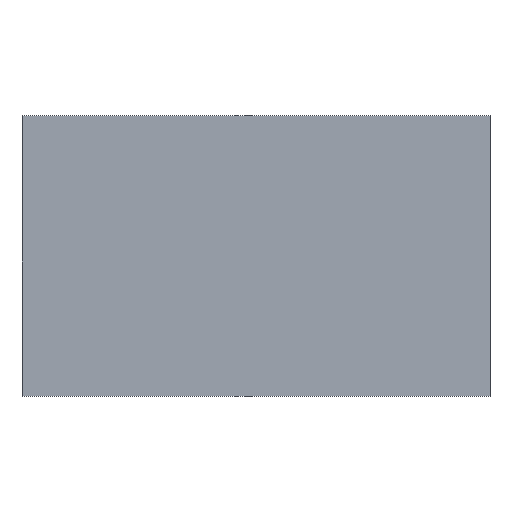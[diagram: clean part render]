
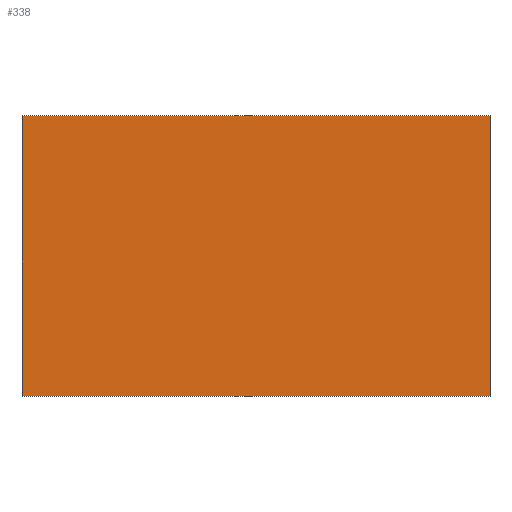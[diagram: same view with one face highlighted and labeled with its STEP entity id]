
A CAD part, top view. The second image highlights one B-rep face of the part: STEP entity #338.
In plain terms, the highlighted planar face has unit normal (0, 0, 1).
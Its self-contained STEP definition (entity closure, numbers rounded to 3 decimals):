
#24 = VERTEX_POINT('',#25);
#25 = CARTESIAN_POINT('',(-100.,-60.,8.));
#32 = PLANE('',#33);
#33 = AXIS2_PLACEMENT_3D('',#34,#35,#36);
#34 = CARTESIAN_POINT('',(-100.,-60.,0.));
#35 = DIRECTION('',(1.,0.,0.));
#36 = DIRECTION('',(0.,0.,1.));
#44 = PLANE('',#45);
#45 = AXIS2_PLACEMENT_3D('',#46,#47,#48);
#46 = CARTESIAN_POINT('',(-100.,-60.,0.));
#47 = DIRECTION('',(0.,1.,0.));
#48 = DIRECTION('',(0.,0.,1.));
#85 = VERTEX_POINT('',#86);
#86 = CARTESIAN_POINT('',(-100.,60.,8.));
#100 = PLANE('',#101);
#101 = AXIS2_PLACEMENT_3D('',#102,#103,#104);
#102 = CARTESIAN_POINT('',(-100.,60.,0.));
#103 = DIRECTION('',(0.,1.,0.));
#104 = DIRECTION('',(0.,0.,1.));
#112 = EDGE_CURVE('',#24,#85,#113,.T.);
#113 = SURFACE_CURVE('',#114,(#118,#125),.PCURVE_S1.);
#114 = LINE('',#115,#116);
#115 = CARTESIAN_POINT('',(-100.,-60.,8.));
#116 = VECTOR('',#117,1.);
#117 = DIRECTION('',(0.,1.,0.));
#118 = PCURVE('',#32,#119);
#119 = DEFINITIONAL_REPRESENTATION('',(#120),#124);
#120 = LINE('',#121,#122);
#121 = CARTESIAN_POINT('',(8.,0.));
#122 = VECTOR('',#123,1.);
#123 = DIRECTION('',(0.,-1.));
#124 = ( GEOMETRIC_REPRESENTATION_CONTEXT(2) 
PARAMETRIC_REPRESENTATION_CONTEXT() REPRESENTATION_CONTEXT('2D SPACE',''
  ) );
#125 = PCURVE('',#126,#131);
#126 = PLANE('',#127);
#127 = AXIS2_PLACEMENT_3D('',#128,#129,#130);
#128 = CARTESIAN_POINT('',(-100.,-60.,8.));
#129 = DIRECTION('',(0.,0.,1.));
#130 = DIRECTION('',(1.,0.,0.));
#131 = DEFINITIONAL_REPRESENTATION('',(#132),#136);
#132 = LINE('',#133,#134);
#133 = CARTESIAN_POINT('',(0.,0.));
#134 = VECTOR('',#135,1.);
#135 = DIRECTION('',(0.,1.));
#136 = ( GEOMETRIC_REPRESENTATION_CONTEXT(2) 
PARAMETRIC_REPRESENTATION_CONTEXT() REPRESENTATION_CONTEXT('2D SPACE',''
  ) );
#144 = VERTEX_POINT('',#145);
#145 = CARTESIAN_POINT('',(100.,-60.,8.));
#152 = PLANE('',#153);
#153 = AXIS2_PLACEMENT_3D('',#154,#155,#156);
#154 = CARTESIAN_POINT('',(100.,-60.,0.));
#155 = DIRECTION('',(1.,0.,0.));
#156 = DIRECTION('',(0.,0.,1.));
#195 = VERTEX_POINT('',#196);
#196 = CARTESIAN_POINT('',(100.,60.,8.));
#217 = EDGE_CURVE('',#144,#195,#218,.T.);
#218 = SURFACE_CURVE('',#219,(#223,#230),.PCURVE_S1.);
#219 = LINE('',#220,#221);
#220 = CARTESIAN_POINT('',(100.,-60.,8.));
#221 = VECTOR('',#222,1.);
#222 = DIRECTION('',(0.,1.,0.));
#223 = PCURVE('',#152,#224);
#224 = DEFINITIONAL_REPRESENTATION('',(#225),#229);
#225 = LINE('',#226,#227);
#226 = CARTESIAN_POINT('',(8.,0.));
#227 = VECTOR('',#228,1.);
#228 = DIRECTION('',(0.,-1.));
#229 = ( GEOMETRIC_REPRESENTATION_CONTEXT(2) 
PARAMETRIC_REPRESENTATION_CONTEXT() REPRESENTATION_CONTEXT('2D SPACE',''
  ) );
#230 = PCURVE('',#126,#231);
#231 = DEFINITIONAL_REPRESENTATION('',(#232),#236);
#232 = LINE('',#233,#234);
#233 = CARTESIAN_POINT('',(200.,0.));
#234 = VECTOR('',#235,1.);
#235 = DIRECTION('',(0.,1.));
#236 = ( GEOMETRIC_REPRESENTATION_CONTEXT(2) 
PARAMETRIC_REPRESENTATION_CONTEXT() REPRESENTATION_CONTEXT('2D SPACE',''
  ) );
#263 = EDGE_CURVE('',#24,#144,#264,.T.);
#264 = SURFACE_CURVE('',#265,(#269,#276),.PCURVE_S1.);
#265 = LINE('',#266,#267);
#266 = CARTESIAN_POINT('',(-100.,-60.,8.));
#267 = VECTOR('',#268,1.);
#268 = DIRECTION('',(1.,0.,0.));
#269 = PCURVE('',#44,#270);
#270 = DEFINITIONAL_REPRESENTATION('',(#271),#275);
#271 = LINE('',#272,#273);
#272 = CARTESIAN_POINT('',(8.,0.));
#273 = VECTOR('',#274,1.);
#274 = DIRECTION('',(0.,1.));
#275 = ( GEOMETRIC_REPRESENTATION_CONTEXT(2) 
PARAMETRIC_REPRESENTATION_CONTEXT() REPRESENTATION_CONTEXT('2D SPACE',''
  ) );
#276 = PCURVE('',#126,#277);
#277 = DEFINITIONAL_REPRESENTATION('',(#278),#282);
#278 = LINE('',#279,#280);
#279 = CARTESIAN_POINT('',(0.,0.));
#280 = VECTOR('',#281,1.);
#281 = DIRECTION('',(1.,0.));
#282 = ( GEOMETRIC_REPRESENTATION_CONTEXT(2) 
PARAMETRIC_REPRESENTATION_CONTEXT() REPRESENTATION_CONTEXT('2D SPACE',''
  ) );
#310 = EDGE_CURVE('',#85,#195,#311,.T.);
#311 = SURFACE_CURVE('',#312,(#316,#323),.PCURVE_S1.);
#312 = LINE('',#313,#314);
#313 = CARTESIAN_POINT('',(-100.,60.,8.));
#314 = VECTOR('',#315,1.);
#315 = DIRECTION('',(1.,0.,0.));
#316 = PCURVE('',#100,#317);
#317 = DEFINITIONAL_REPRESENTATION('',(#318),#322);
#318 = LINE('',#319,#320);
#319 = CARTESIAN_POINT('',(8.,0.));
#320 = VECTOR('',#321,1.);
#321 = DIRECTION('',(0.,1.));
#322 = ( GEOMETRIC_REPRESENTATION_CONTEXT(2) 
PARAMETRIC_REPRESENTATION_CONTEXT() REPRESENTATION_CONTEXT('2D SPACE',''
  ) );
#323 = PCURVE('',#126,#324);
#324 = DEFINITIONAL_REPRESENTATION('',(#325),#329);
#325 = LINE('',#326,#327);
#326 = CARTESIAN_POINT('',(0.,120.));
#327 = VECTOR('',#328,1.);
#328 = DIRECTION('',(1.,0.));
#329 = ( GEOMETRIC_REPRESENTATION_CONTEXT(2) 
PARAMETRIC_REPRESENTATION_CONTEXT() REPRESENTATION_CONTEXT('2D SPACE',''
  ) );
#338 = ADVANCED_FACE('',(#339),#126,.T.);
#339 = FACE_BOUND('',#340,.T.);
#340 = EDGE_LOOP('',(#341,#342,#343,#344));
#341 = ORIENTED_EDGE('',*,*,#112,.F.);
#342 = ORIENTED_EDGE('',*,*,#263,.T.);
#343 = ORIENTED_EDGE('',*,*,#217,.T.);
#344 = ORIENTED_EDGE('',*,*,#310,.F.);
